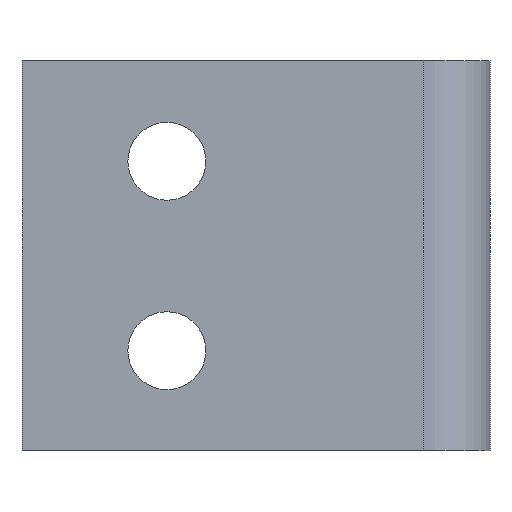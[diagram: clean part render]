
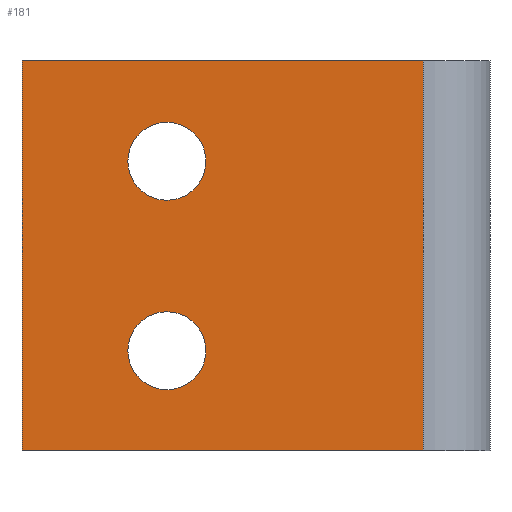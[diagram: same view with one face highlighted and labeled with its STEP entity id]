
A CAD part, front view. The second image highlights one B-rep face of the part: STEP entity #181.
In plain terms, the highlighted planar face has unit normal (0, -1, 0).
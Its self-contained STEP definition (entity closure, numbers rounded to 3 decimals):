
#10 = CARTESIAN_POINT ( 'NONE',  ( 36., 0., -35. ) ) ;
#12 = EDGE_CURVE ( 'NONE', #238, #238, #406, .T. ) ;
#13 = DIRECTION ( 'NONE',  ( 1., 0., 0. ) ) ;
#23 = ORIENTED_EDGE ( 'NONE', *, *, #120, .F. ) ;
#29 = EDGE_CURVE ( 'NONE', #341, #119, #204, .T. ) ;
#32 = DIRECTION ( 'NONE',  ( 0., -1., 0. ) ) ;
#36 = ORIENTED_EDGE ( 'NONE', *, *, #416, .T. ) ;
#41 = AXIS2_PLACEMENT_3D ( 'NONE', #249, #186, #347 ) ;
#50 = CARTESIAN_POINT ( 'NONE',  ( 36., 0., -35. ) ) ;
#54 = AXIS2_PLACEMENT_3D ( 'NONE', #187, #349, #351 ) ;
#62 = FACE_OUTER_BOUND ( 'NONE', #375, .T. ) ;
#63 = EDGE_LOOP ( 'NONE', ( #129 ) ) ;
#67 = FACE_BOUND ( 'NONE', #63, .T. ) ;
#77 = CARTESIAN_POINT ( 'NONE',  ( 13., 0., -22.5 ) ) ;
#84 = DIRECTION ( 'NONE',  ( 0., 0., -1. ) ) ;
#88 = VECTOR ( 'NONE', #369, 1000. ) ;
#107 = CARTESIAN_POINT ( 'NONE',  ( 0., 0., -35. ) ) ;
#119 = VERTEX_POINT ( 'NONE', #10 ) ;
#120 = EDGE_CURVE ( 'NONE', #341, #382, #396, .T. ) ;
#121 = PLANE ( 'NONE',  #380 ) ;
#129 = ORIENTED_EDGE ( 'NONE', *, *, #12, .T. ) ;
#137 = CARTESIAN_POINT ( 'NONE',  ( 13., 0., -5.5 ) ) ;
#150 = LINE ( 'NONE', #184, #357 ) ;
#178 = CIRCLE ( 'NONE', #54, 3.5 ) ;
#181 = ADVANCED_FACE ( 'NONE', ( #263, #67, #62 ), #121, .T. ) ;
#184 = CARTESIAN_POINT ( 'NONE',  ( 0., 0., 0. ) ) ;
#186 = DIRECTION ( 'NONE',  ( 0., 1., 0. ) ) ;
#187 = CARTESIAN_POINT ( 'NONE',  ( 13., 0., -26. ) ) ;
#190 = EDGE_CURVE ( 'NONE', #382, #243, #150, .T. ) ;
#204 = LINE ( 'NONE', #107, #208 ) ;
#208 = VECTOR ( 'NONE', #13, 1000. ) ;
#226 = CARTESIAN_POINT ( 'NONE',  ( 0., 0., -35. ) ) ;
#238 = VERTEX_POINT ( 'NONE', #137 ) ;
#243 = VERTEX_POINT ( 'NONE', #371 ) ;
#249 = CARTESIAN_POINT ( 'NONE',  ( 13., 0., -9. ) ) ;
#255 = CARTESIAN_POINT ( 'NONE',  ( 0., 0., 0. ) ) ;
#263 = FACE_BOUND ( 'NONE', #290, .T. ) ;
#265 = CARTESIAN_POINT ( 'NONE',  ( 0., 0., -35. ) ) ;
#284 = EDGE_CURVE ( 'NONE', #330, #330, #178, .T. ) ;
#290 = EDGE_LOOP ( 'NONE', ( #319 ) ) ;
#310 = ORIENTED_EDGE ( 'NONE', *, *, #29, .T. ) ;
#319 = ORIENTED_EDGE ( 'NONE', *, *, #284, .T. ) ;
#324 = CARTESIAN_POINT ( 'NONE',  ( 0., 0., -35. ) ) ;
#330 = VERTEX_POINT ( 'NONE', #77 ) ;
#334 = VECTOR ( 'NONE', #398, 1000. ) ;
#338 = DIRECTION ( 'NONE',  ( 1., 0., 0. ) ) ;
#341 = VERTEX_POINT ( 'NONE', #324 ) ;
#347 = DIRECTION ( 'NONE',  ( 0., 0., 1. ) ) ;
#349 = DIRECTION ( 'NONE',  ( 0., 1., 0. ) ) ;
#351 = DIRECTION ( 'NONE',  ( 0., 0., 1. ) ) ;
#352 = ORIENTED_EDGE ( 'NONE', *, *, #190, .F. ) ;
#357 = VECTOR ( 'NONE', #338, 1000. ) ;
#369 = DIRECTION ( 'NONE',  ( 0., 0., 1. ) ) ;
#371 = CARTESIAN_POINT ( 'NONE',  ( 36., 0., 0. ) ) ;
#375 = EDGE_LOOP ( 'NONE', ( #352, #23, #310, #36 ) ) ;
#380 = AXIS2_PLACEMENT_3D ( 'NONE', #226, #32, #84 ) ;
#382 = VERTEX_POINT ( 'NONE', #255 ) ;
#392 = LINE ( 'NONE', #50, #88 ) ;
#396 = LINE ( 'NONE', #265, #334 ) ;
#398 = DIRECTION ( 'NONE',  ( 0., 0., 1. ) ) ;
#406 = CIRCLE ( 'NONE', #41, 3.5 ) ;
#416 = EDGE_CURVE ( 'NONE', #119, #243, #392, .T. ) ;
